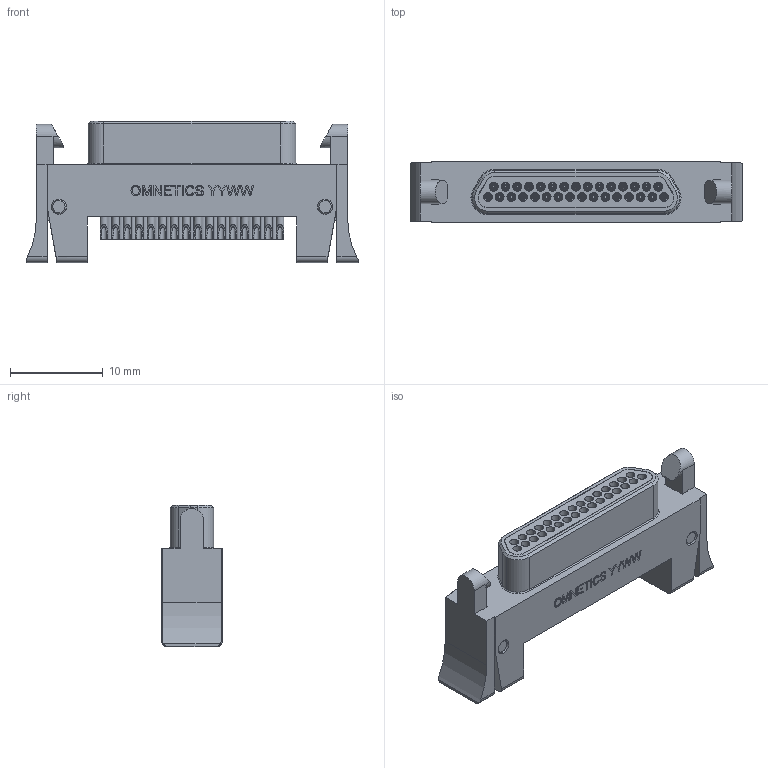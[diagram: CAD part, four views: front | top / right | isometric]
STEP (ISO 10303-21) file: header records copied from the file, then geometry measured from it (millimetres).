
FILE_DESCRIPTION (( 'STEP AP214' ), '1' );
FILE_NAME ('A98027-031 REV B.STEP', '2013-12-19T14:42:29', ( '' ), ( '' ), 'SwSTEP 2.0', 'SolidWorks 2012', '' );
FILE_SCHEMA (( 'AUTOMOTIVE_DESIGN' ));
Length unit declared in the file: inch
Products named in the file (1): A98027-031 REV 1
Bounding box: 35.89 x 6.62 x 15.27 mm (x, y, z)
Volume: 1854.2 mm3; surface area: 3497.1 mm2
Topology: 1 solids, 3 shells, 1204 faces, 2725 edges, 1629 vertices
Faces by surface type: cylinder 531, plane 353, cone 199, torus 67, bspline 54
Entity records: 37072 total; most frequent: CARTESIAN_POINT 10064, DIRECTION 5916, ORIENTED_EDGE 5314, EDGE_CURVE 2657, AXIS2_PLACEMENT_3D 2296, VERTEX_POINT 1629, EDGE_LOOP 1386, LINE 1324
